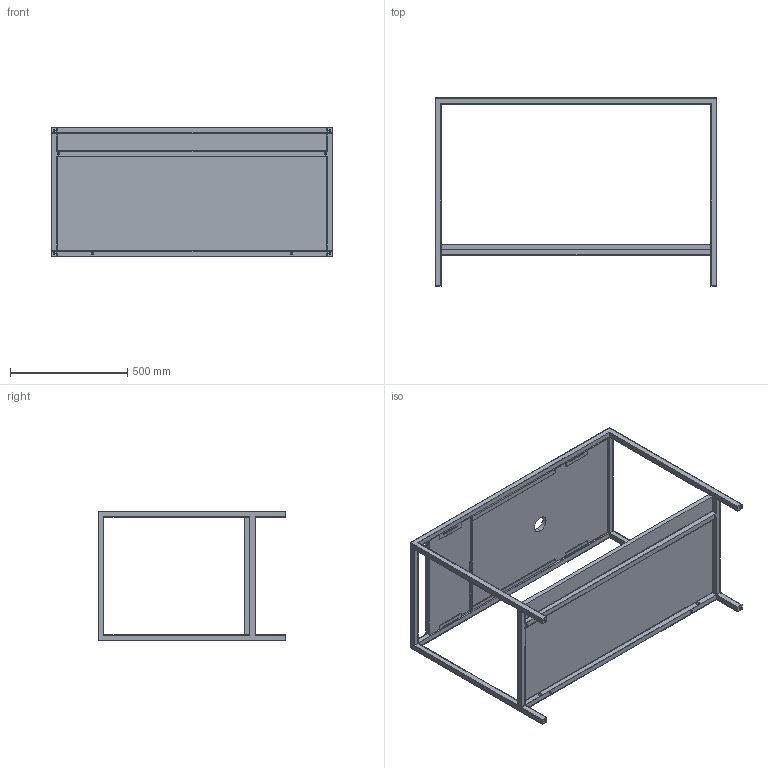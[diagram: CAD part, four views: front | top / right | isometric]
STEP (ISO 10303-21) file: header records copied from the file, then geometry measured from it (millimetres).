
FILE_DESCRIPTION (( 'STEP AP203' ), '1' );
FILE_NAME ('STL 120 01.STEP', '2019-02-04T13:43:06', ( '' ), ( '' ), 'SwSTEP 2.0', 'SolidWorks 2019', '' );
FILE_SCHEMA (( 'CONFIG_CONTROL_DESIGN' ));
Length unit declared in the file: millimetre
Products named in the file (5): STL 120 01; vassoio; PIANO MISURA 820X495; struttura STAND 120; piano120
Assembly tree (4 placements, depth 2):
  STL 120 01
    struttura STAND 120
    PIANO MISURA 820X495
    vassoio
    piano120
Bounding box: 1200 x 800 x 550 mm (x, y, z)
Volume: 22250228.3 mm3; surface area: 4339058.4 mm2
Topology: 4 solids, 4 shells, 197 faces, 530 edges, 324 vertices
Faces by surface type: plane 135, cylinder 54, sphere 8
Entity records: 6631 total; most frequent: CARTESIAN_POINT 1050, ORIENTED_EDGE 1044, DIRECTION 1038, EDGE_CURVE 522, VECTOR 414, LINE 414, VERTEX_POINT 324, AXIS2_PLACEMENT_3D 312
